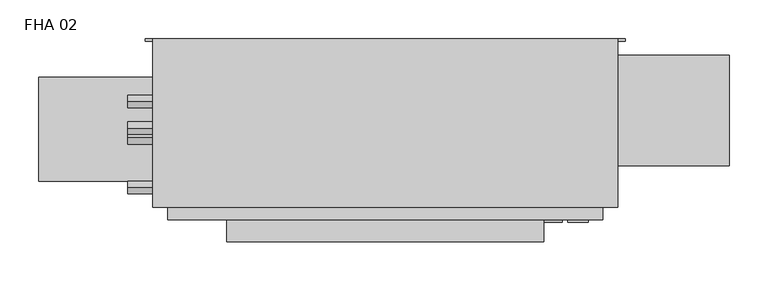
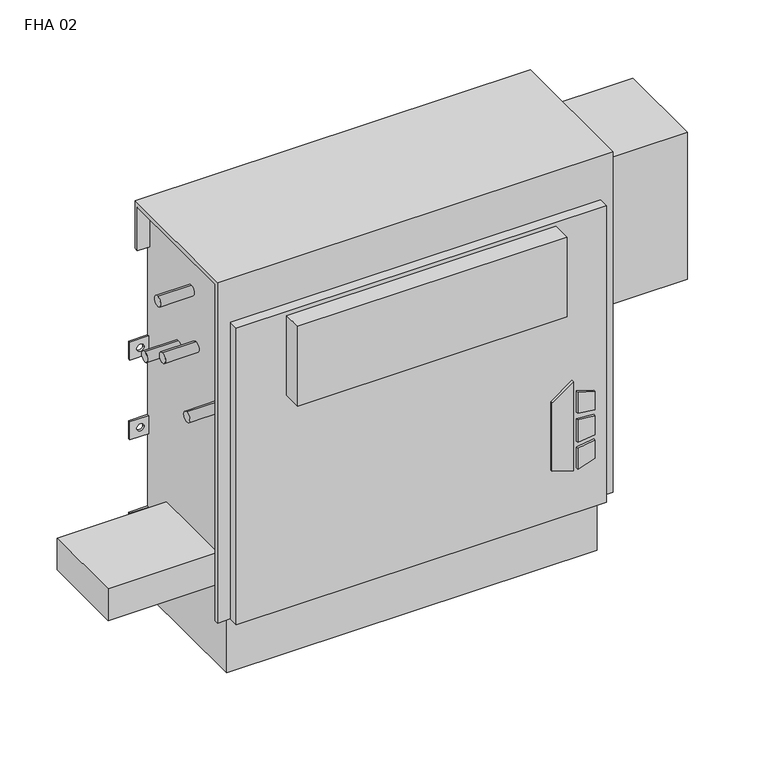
"""IFC4 building model written with IfcOpenShell, lengths in millimetres: proxy geometry, Vertical_Fan_Coil_Unit_-_FHA_-_IEC_-_4-Pipe_FS-FR_LH_2022 : FHA 02."""

import ifcopenshell
import ifcopenshell.guid

model = None  # the IFC model being written
_history = None  # IfcOwnerHistory: only IFC2X3 demands one
_inside = {}  # id of a spatial element -> (the spatial element, [elements in it])
_under = {}  # id of a project, library or spatial element -> (it, [spatial elements below it])
_declared = {}  # id of a project -> (the project, [libraries it declares])
_typed = {}  # id of a type object -> (the type object, [elements of that type])
_made_of = {}  # id of a material, layer set ... -> (it, [elements and type objects made of it])


def new_model(schema):
    """Start an empty IFC model of exactly this schema.

    Asked for "IFC4X3", IfcOpenShell would pick the latest addendum, in which some entities
    have other attributes; the version numbers below select the first issue.
    IFC2X3 requires an IfcOwnerHistory on every rooted entity: one is made here for all.
    """
    global model, _history
    if schema == "IFC4X3":
        model = ifcopenshell.file(schema_version=(4, 3, 0, 0))
    else:
        model = ifcopenshell.file(schema=schema)
    _inside.clear()
    _under.clear()
    _declared.clear()
    _typed.clear()
    _made_of.clear()
    _history = None
    if model.schema == "IFC2X3":
        org = make("IfcOrganization", Name="unknown")
        user = make(
            "IfcPersonAndOrganization",
            ThePerson=make("IfcPerson", FamilyName="unknown"),
            TheOrganization=org,
        )
        app = make(
            "IfcApplication",
            ApplicationDeveloper=org,
            Version="unknown",
            ApplicationFullName="unknown",
            ApplicationIdentifier="unknown",
        )
        _history = make(
            "IfcOwnerHistory",
            OwningUser=user,
            OwningApplication=app,
            ChangeAction="ADDED",
            CreationDate=0,
        )
    return model


def make(cls, **values):
    """One entity of the class cls with the attributes given. An attribute that is None is left unset."""
    return model.create_entity(
        cls, **{name: value for name, value in values.items() if value is not None}
    )


def rooted(cls, **values):
    """An entity with a GlobalId (a new one), such as an element, a storey or a relation."""
    return make(cls, GlobalId=ifcopenshell.guid.new(), OwnerHistory=_history, **values)


def si_unit(unit_type, name, prefix=None):
    """IfcSIUnit, for example si_unit("LENGTHUNIT", "METRE", prefix="MILLI")."""
    return make("IfcSIUnit", UnitType=unit_type, Prefix=prefix, Name=name)


def assignment(units):
    """IfcUnitAssignment: the units of a project."""
    return None if units is None else make("IfcUnitAssignment", Units=units)


def point(xyz):
    """IfcCartesianPoint."""
    return None if xyz is None else make("IfcCartesianPoint", Coordinates=xyz)


def direction(xyz):
    """IfcDirection."""
    return None if xyz is None else make("IfcDirection", DirectionRatios=xyz)


def frame(location, z_axis=None, x_axis=None):
    """IfcAxis2Placement3D, a coordinate frame: its origin and axes. An axis left out is left unset."""
    return make(
        "IfcAxis2Placement3D",
        Location=point(location),
        Axis=direction(z_axis),
        RefDirection=direction(x_axis),
    )


def frame_2d(location, x_axis=None):
    """IfcAxis2Placement2D, a coordinate frame in the plane: its origin and x axis."""
    return make(
        "IfcAxis2Placement2D", Location=point(location), RefDirection=direction(x_axis)
    )


def origin():
    """The frame at (0, 0, 0) with its axes left unset."""
    return frame((0.0, 0.0, 0.0))


def place(relative_to, where):
    """IfcLocalPlacement: puts the frame where relative to a parent placement (None: the world)."""
    return make(
        "IfcLocalPlacement", PlacementRelTo=relative_to, RelativePlacement=where
    )


def context(
    kind, dimensions, precision=None, world=None, true_north=None, identifier=None
):
    """IfcGeometricRepresentationContext, for example the 3D "Model" context."""
    return make(
        "IfcGeometricRepresentationContext",
        ContextIdentifier=identifier,
        ContextType=kind,
        CoordinateSpaceDimension=dimensions,
        Precision=precision,
        WorldCoordinateSystem=world,
        TrueNorth=true_north,
    )


def project(units=None, contexts=None):
    """IfcProject with its units and contexts."""
    return rooted(
        "IfcProject",
        Name="project",
        RepresentationContexts=contexts,
        UnitsInContext=assignment(units),
    )


def spatial(cls, under=None, at=None, **own):
    """A site, building, storey or space (cls), placed at a placement, below another one or the project."""
    s = rooted(cls, ObjectPlacement=at, **own)
    if under is not None:
        _under.setdefault(under.id(), (under, []))[1].append(s)
    return s


def polyline(points):
    """IfcPolyline through the points."""
    return make("IfcPolyline", Points=[point(p) for p in points])


def circle_curve(where, radius):
    """IfcCircle in the frame where."""
    return make("IfcCircle", Position=where, Radius=radius)


def trimmed(basis, trim1, trim2, sense, master):
    """IfcTrimmedCurve: the piece of a basis curve between two trims."""
    return make(
        "IfcTrimmedCurve",
        BasisCurve=basis,
        Trim1=trim1,
        Trim2=trim2,
        SenseAgreement=sense,
        MasterRepresentation=master,
    )


def segment(curve, same_sense, transition):
    """IfcCompositeCurveSegment."""
    return make(
        "IfcCompositeCurveSegment",
        Transition=transition,
        SameSense=same_sense,
        ParentCurve=curve,
    )


def composite_curve(segments, self_intersect=None):
    """IfcCompositeCurve: segments joined end to end."""
    return make("IfcCompositeCurve", Segments=segments, SelfIntersect=self_intersect)


def outline(outer, holes=None, kind="AREA"):
    """IfcArbitraryClosedProfileDef: a profile drawn as a closed curve; with holes, ...WithVoids."""
    if holes is None:
        return make("IfcArbitraryClosedProfileDef", ProfileType=kind, OuterCurve=outer)
    return make(
        "IfcArbitraryProfileDefWithVoids",
        ProfileType=kind,
        OuterCurve=outer,
        InnerCurves=holes,
    )


def extrude(swept, where, along, depth):
    """IfcExtrudedAreaSolid: the profile swept, set in the frame where, extruded along a direction by depth."""
    return make(
        "IfcExtrudedAreaSolid",
        SweptArea=swept,
        Position=where,
        ExtrudedDirection=direction(along),
        Depth=depth,
    )


def shape(context_of_items, identifier, shape_type, items):
    """IfcShapeRepresentation: the items that make up one representation, for example the "Body"."""
    return make(
        "IfcShapeRepresentation",
        ContextOfItems=context_of_items,
        RepresentationIdentifier=identifier,
        RepresentationType=shape_type,
        Items=items,
    )


def source(mapping_origin, context_of_items, identifier, shape_type, items):
    """IfcRepresentationMap: a shape defined once, which mapped items show again and again."""
    return make(
        "IfcRepresentationMap",
        MappingOrigin=mapping_origin,
        MappedRepresentation=shape(context_of_items, identifier, shape_type, items),
    )


def transform(
    local_origin,
    x_axis=None,
    y_axis=None,
    z_axis=None,
    scale=None,
    scale2=None,
    scale3=None,
    uniform=True,
):
    """IfcCartesianTransformationOperator3D, or its non-uniform kind. x_axis, y_axis, z_axis: its Axis1, 2, 3."""
    if uniform:
        return make(
            "IfcCartesianTransformationOperator3D",
            Axis1=direction(x_axis),
            Axis2=direction(y_axis),
            LocalOrigin=point(local_origin),
            Scale=scale,
            Axis3=direction(z_axis),
        )
    return make(
        "IfcCartesianTransformationOperator3DnonUniform",
        Axis1=direction(x_axis),
        Axis2=direction(y_axis),
        LocalOrigin=point(local_origin),
        Scale=scale,
        Axis3=direction(z_axis),
        Scale2=scale2,
        Scale3=scale3,
    )


def mapped(mapping_source, mapping_target):
    """IfcMappedItem: shows the shape of a source again, moved by a transform."""
    return make(
        "IfcMappedItem", MappingSource=mapping_source, MappingTarget=mapping_target
    )


def made_of(thing, what):
    """Note that an element or type object is made of a material, layer set ...; save() writes the relation."""
    if what is not None:
        _made_of.setdefault(what.id(), (what, []))[1].append(thing)
    return thing


def element(
    cls,
    number,
    at=None,
    inside=None,
    cuts=None,
    type_object=None,
    material=None,
    context=None,
    identifier="Body",
    shape_type=None,
    held_by="IfcProductDefinitionShape",
    body=None,
    shapes=None,
    **own,
):
    """One element of the class cls, such as IfcWall. Its Tag is "e" and its number.

    at: its placement. inside: the storey or other place that contains it. cuts: it is an
    opening in that element (IfcRelVoidsElement). A single representation is given by context,
    identifier, shape_type and body (its items); several are given by shapes. held_by: the class
    of the entity that holds the representations. save() writes the other relations.
    """
    e = rooted(cls, Tag="e%d" % number, ObjectPlacement=at, **own)
    if body is not None:
        shapes = [shape(context, identifier, shape_type, body)]
    if shapes is not None:
        e.Representation = make(held_by, Representations=shapes)
    if inside is not None:
        _inside.setdefault(inside.id(), (inside, []))[1].append(e)
    if cuts is not None:
        rooted(
            "IfcRelVoidsElement", RelatingBuildingElement=cuts, RelatedOpeningElement=e
        )
    if type_object is not None:
        _typed.setdefault(type_object.id(), (type_object, []))[1].append(e)
    return made_of(e, material)


def aggregate(whole, parts):
    """IfcRelAggregates: a whole, such as a stair, and the parts it consists of."""
    return rooted("IfcRelAggregates", RelatingObject=whole, RelatedObjects=parts)


def save(model, path):
    """Write the relations noted so far, then the file.

    IfcRelAggregates (storeys below a building ...), IfcRelContainedInSpatialStructure (elements
    in a storey), IfcRelDefinesByType, IfcRelAssociatesMaterial and IfcRelDeclares: one each for
    every whole, place, type object, material and project.
    """
    for whole, parts in _under.values():
        aggregate(whole, parts)
    for where, things in _inside.values():
        rooted(
            "IfcRelContainedInSpatialStructure",
            RelatedElements=things,
            RelatingStructure=where,
        )
    for kind, things in _typed.values():
        rooted("IfcRelDefinesByType", RelatedObjects=things, RelatingType=kind)
    for what, things in _made_of.values():
        rooted("IfcRelAssociatesMaterial", RelatedObjects=things, RelatingMaterial=what)
    for by, libraries in _declared.values():
        rooted("IfcRelDeclares", RelatingContext=by, RelatedDefinitions=libraries)
    model.write(path)


def plane_surface(at):
    """IfcPlane: the flat surface through the origin of the frame at, square to its z axis."""
    return make("IfcPlane", Position=at)


def revolved_surface(curve, axis_point, axis_direction):
    """IfcSurfaceOfRevolution: the curve turned about the line through axis_point along axis_direction."""
    return make(
        "IfcSurfaceOfRevolution",
        SweptCurve=make("IfcArbitraryOpenProfileDef", ProfileType="CURVE", Curve=curve),
        AxisPosition=make("IfcAxis1Placement", Location=point(axis_point), Axis=direction(axis_direction)),
    )


def advanced_brep(points, edges, surfaces, faces):
    """IfcAdvancedBrep: a solid bounded by faces that lie on surfaces and meet in shared edges.

    An edge is (start, end): straight between two places in points (the first is 0);
    or (start, end, curve); or (start, end, curve, False) where it runs against its curve.
    A face is (place in surfaces, loops), or (place, loops, False) where it looks against
    its surface's normal. A loop lists edges by number (the first is 1), with a minus sign
    where the edge is run from its end to its start. The first loop is the outer one.
    """
    corners = [point(p) for p in points]
    vertices = [make("IfcVertexPoint", VertexGeometry=c) for c in corners]
    made = []
    for start, end, *more in edges:
        made.append(
            make(
                "IfcEdgeCurve",
                EdgeStart=vertices[start],
                EdgeEnd=vertices[end],
                EdgeGeometry=more[0] if more else make("IfcPolyline", Points=[corners[start], corners[end]]),
                SameSense=more[1] if len(more) > 1 else True,
            )
        )
    hull = []
    for where, loops, *sense in faces:
        bounds = []
        for j, loop in enumerate(loops):
            ring = [make("IfcOrientedEdge", EdgeElement=made[abs(k) - 1], Orientation=k > 0) for k in loop]
            bounds.append(
                make(
                    "IfcFaceOuterBound" if j == 0 else "IfcFaceBound",
                    Bound=make("IfcEdgeLoop", EdgeList=ring),
                    Orientation=True,
                )
            )
        hull.append(make("IfcAdvancedFace", Bounds=bounds, FaceSurface=surfaces[where], SameSense=sense[0] if sense else True))
    return make("IfcAdvancedBrep", Outer=make("IfcClosedShell", CfsFaces=hull))


def fha_02_48b6a298(model_context):
    return source(origin(), model_context, "Body", "SolidModel", [
        extrude(outline(polyline([(172.5771459, 347.7368862), (162.6290756, 379.9102728), (304.8, 379.9102728), (281.7779939, 347.7368862), (172.5771459, 347.7368862)])), frame((0.0, 9.525, 0.0), z_axis=(0.0, 1.0, 0.0), x_axis=(0.0, 0.0, 1.0)), (0.0, 0.0, 1.0), 3.175),
        extrude(outline(polyline([(251.5764313, 386.6686058), (248.3740387, 412.75), (277.6028798, 412.75), (285.6672948, 386.6686058), (251.5764313, 386.6686058)])), frame((0.0, 9.525, 0.0), z_axis=(0.0, 1.0, 0.0), x_axis=(0.0, 0.0, 1.0)), (0.0, 0.0, 1.0), 3.175),
        extrude(outline(polyline([(199.7129044, 412.75), (196.0474034, 386.6686058), (162.6290756, 386.6686058), (171.2633128, 412.75), (199.7129044, 412.75)])), frame((0.0, 9.525, 0.0), z_axis=(0.0, 1.0, 0.0), x_axis=(0.0, 0.0, 1.0)), (0.0, 0.0, 1.0), 3.175),
        extrude(outline(polyline([(239.0280658, 412.75), (241.3098921, 386.6686058), (205.3723436, 386.6686058), (208.1136086, 412.75), (239.0280658, 412.75)])), frame((0.0, 9.525, 0.0), z_axis=(0.0, 1.0, 0.0), x_axis=(0.0, 0.0, 1.0)), (0.0, 0.0, 1.0), 3.175),
        extrude(outline(composite_curve([segment(trimmed(circle_curve(frame_2d((-190.5, 128.5875)), 9.525), [point((-200.025, 128.5875))], [point((-180.975, 128.5875))], False, "CARTESIAN"), True, "CONTINUOUS"), segment(trimmed(circle_curve(frame_2d((-190.5, 128.5875)), 9.525), [point((-180.975, 128.5875))], [point((-200.025, 128.5875))], False, "CARTESIAN"), True, "CONTINUOUS")], self_intersect=False)), frame((0.0, 0.0, 101.6), z_axis=(0.0, 0.0, 1.0), x_axis=(1.0, 0.0, 0.0)), (0.0, 0.0, 1.0), 25.4),
        extrude(outline(polyline([(-292.1, 61.9125), (-292.1, 195.2625), (-127.0, 195.2625), (-127.0, 61.9125), (-292.1, 61.9125)])), frame((0.0, 0.0, 127.0), z_axis=(0.0, 0.0, 1.0), x_axis=(1.0, 0.0, 0.0)), (0.0, 0.0, 1.0), 50.8),
        extrude(outline(polyline([(355.6, -15.875), (-50.8, -15.875), (-50.8, 12.7), (355.6, 12.7), (355.6, -15.875)])), frame((0.0, 0.0, 431.8), z_axis=(0.0, 0.0, 1.0), x_axis=(1.0, 0.0, 0.0)), (0.0, 0.0, 1.0), 127.0),
        extrude(outline(composite_curve([segment(trimmed(circle_curve(frame_2d((117.475, 472.44)), 7.9375), [point((117.475, 480.3775))], [point((117.475, 464.5025))], False, "CARTESIAN"), True, "CONTINUOUS"), segment(trimmed(circle_curve(frame_2d((117.475, 472.44)), 7.9375), [point((117.475, 464.5025))], [point((117.475, 480.3775))], False, "CARTESIAN"), True, "CONTINUOUS")], self_intersect=False)), frame((-177.8, 0.0, 0.0), z_axis=(1.0, 0.0, 0.0), x_axis=(0.0, 1.0, 0.0)), (0.0, 0.0, 1.0), 50.8),
        extrude(outline(composite_curve([segment(trimmed(circle_curve(frame_2d((164.0586, 445.897)), 7.9375), [point((164.0586, 453.8345))], [point((164.0586, 437.9595))], False, "CARTESIAN"), True, "CONTINUOUS"), segment(trimmed(circle_curve(frame_2d((164.0586, 445.897)), 7.9375), [point((164.0586, 437.9595))], [point((164.0586, 453.8345))], False, "CARTESIAN"), True, "CONTINUOUS")], self_intersect=False)), frame((-177.8, 0.0, 0.0), z_axis=(1.0, 0.0, 0.0), x_axis=(0.0, 1.0, 0.0)), (0.0, 0.0, 1.0), 50.8),
        extrude(outline(composite_curve([segment(trimmed(circle_curve(frame_2d((130.175, 554.99)), 7.9502), [point((130.175, 562.9402))], [point((130.175, 547.0398))], False, "CARTESIAN"), True, "CONTINUOUS"), segment(trimmed(circle_curve(frame_2d((130.175, 554.99)), 7.9502), [point((130.175, 547.0398))], [point((130.175, 562.9402))], False, "CARTESIAN"), True, "CONTINUOUS")], self_intersect=False)), frame((-177.8, 0.0, 0.0), z_axis=(1.0, 0.0, 0.0), x_axis=(0.0, 1.0, 0.0)), (0.0, 0.0, 1.0), 50.8),
        extrude(outline(composite_curve([segment(trimmed(circle_curve(frame_2d((53.975, 416.56)), 7.9502), [point((53.975, 424.5102))], [point((53.975, 408.6098))], False, "CARTESIAN"), True, "CONTINUOUS"), segment(trimmed(circle_curve(frame_2d((53.975, 416.56)), 7.9502), [point((53.975, 408.6098))], [point((53.975, 424.5102))], False, "CARTESIAN"), True, "CONTINUOUS")], self_intersect=False)), frame((-177.8, 0.0, 0.0), z_axis=(1.0, 0.0, 0.0), x_axis=(0.0, 1.0, 0.0)), (0.0, 0.0, 1.0), 50.8),
        extrude(outline(polyline([(593.725, 223.266), (593.725, 81.534), (431.8, 81.534), (431.8, 223.266), (593.725, 223.266)])), frame((0.0, 0.0, 349.25), z_axis=(0.0, 0.0, 1.0), x_axis=(1.0, 0.0, 0.0)), (0.0, 0.0, 1.0), 234.95),
        advanced_brep(
        [(450.85, 244.475, 635.0), (-146.05, 244.475, 635.0), (-146.05, 28.575, 635.0), (450.85, 28.575, 635.0), (-127.0, 244.475, 0.0), (431.8, 244.475, 0.0), (431.8, 38.1, 0.0), (-127.0, 38.1, 0.0), (450.85, 244.475, 558.8), (431.8, 244.475, 558.8), (431.8, 244.475, 414.3375), (460.375, 244.475, 414.3375), (460.375, 244.475, 385.7625), (431.8, 244.475, 385.7625), (431.8, 244.475, 287.3375), (460.375, 244.475, 287.3375), (460.375, 244.475, 258.7625), (431.8, 244.475, 258.7625), (431.8, 244.475, 141.2875), (460.375, 244.475, 141.2875), (460.375, 244.475, 112.7125), (431.8, 244.475, 112.7125), (-127.0, 244.475, 112.7125), (-155.575, 244.475, 112.7125), (-155.575, 244.475, 141.2875), (-127.0, 244.475, 141.2875), (-127.0, 244.475, 258.7625), (-155.575, 244.475, 258.7625), (-155.575, 244.475, 287.3375), (-127.0, 244.475, 287.3375), (-127.0, 244.475, 385.7625), (-155.575, 244.475, 385.7625), (-155.575, 244.475, 414.3375), (-127.0, 244.475, 414.3375), (-127.0, 244.475, 558.8), (-146.05, 244.475, 558.8), (450.0626, 244.475, 127.0), (438.9374, 244.475, 127.0), (-134.1374, 244.475, 127.0), (-145.2626, 244.475, 127.0), (450.0626, 244.475, 273.05), (438.9374, 244.475, 273.05), (-134.1374, 244.475, 273.05), (-145.2626, 244.475, 273.05), (450.0626, 244.475, 400.05), (438.9374, 244.475, 400.05), (-134.1374, 244.475, 400.05), (-145.2626, 244.475, 400.05), (-146.05, 238.125, 558.8), (-146.05, 238.125, 628.65), (-146.05, 34.925, 628.65), (-146.05, 34.925, 92.075), (-146.05, 28.575, 92.075), (431.8, 12.7, 565.15), (-127.0, 12.7, 565.15), (-127.0, 12.7, 92.075), (431.8, 12.7, 92.075), (450.85, 28.575, 92.075), (450.85, 34.925, 92.075), (450.85, 34.925, 628.65), (450.85, 238.125, 628.65), (450.85, 238.125, 558.8), (-127.0, 28.575, 92.075), (-127.0, 28.575, 565.15), (431.8, 28.575, 565.15), (431.8, 28.575, 92.075), (-127.0, 34.925, 92.075), (-127.0, 38.1, 92.075), (431.8, 38.1, 92.075), (431.8, 34.925, 92.075), (431.8, 241.3, 112.7125), (431.8, 241.3, 141.2875), (431.8, 241.3, 258.7625), (431.8, 241.3, 287.3375), (431.8, 241.3, 385.7625), (431.8, 241.3, 414.3375), (431.8, 238.125, 558.8), (431.8, 238.125, 628.65), (431.8, 34.925, 628.65), (-127.0, 34.925, 628.65), (-127.0, 238.125, 628.65), (-127.0, 238.125, 558.8), (-127.0, 241.3, 414.3375), (-127.0, 241.3, 385.7625), (-127.0, 241.3, 287.3375), (-127.0, 241.3, 258.7625), (-127.0, 241.3, 141.2875), (-127.0, 241.3, 112.7125), (460.375, 241.3, 112.7125), (460.375, 241.3, 141.2875), (438.9374, 241.3, 127.0), (450.0626, 241.3, 127.0), (460.375, 241.3, 258.7625), (460.375, 241.3, 287.3375), (438.9374, 241.3, 273.05), (450.0626, 241.3, 273.05), (460.375, 241.3, 385.7625), (460.375, 241.3, 414.3375), (438.9374, 241.3, 400.05), (450.0626, 241.3, 400.05), (-155.575, 241.3, 141.2875), (-155.575, 241.3, 112.7125), (-145.2626, 241.3, 127.0), (-134.1374, 241.3, 127.0), (-155.575, 241.3, 287.3375), (-155.575, 241.3, 258.7625), (-145.2626, 241.3, 273.05), (-134.1374, 241.3, 273.05), (-155.575, 241.3, 414.3375), (-155.575, 241.3, 385.7625), (-145.2626, 241.3, 400.05), (-134.1374, 241.3, 400.05)],
        [
            (0, 1),
            (1, 2),
            (2, 3),
            (3, 0),
            (4, 5),
            (5, 6),
            (6, 7),
            (7, 4),
            (0, 8),
            (8, 9),
            (9, 10),
            (10, 11),
            (11, 12),
            (12, 13),
            (13, 14),
            (14, 15),
            (15, 16),
            (16, 17),
            (17, 18),
            (18, 19),
            (19, 20),
            (20, 21),
            (21, 5),
            (4, 22),
            (22, 23),
            (23, 24),
            (24, 25),
            (25, 26),
            (26, 27),
            (27, 28),
            (28, 29),
            (29, 30),
            (30, 31),
            (31, 32),
            (32, 33),
            (33, 34),
            (34, 35),
            (35, 1),
            (36, 37, circle_curve(frame((444.5, 244.475, 127.0), z_axis=(0.0, -1.0, 0.0), x_axis=(-1.0, 0.0, 0.0)), 5.5626)),
            (37, 36, circle_curve(frame((444.5, 244.475, 127.0), z_axis=(0.0, -1.0, 0.0), x_axis=(-1.0, 0.0, 0.0)), 5.5626)),
            (38, 39, circle_curve(frame((-139.7, 244.475, 127.0), z_axis=(0.0, -1.0, 0.0), x_axis=(-1.0, 0.0, 0.0)), 5.5626)),
            (39, 38, circle_curve(frame((-139.7, 244.475, 127.0), z_axis=(0.0, -1.0, 0.0), x_axis=(-1.0, 0.0, 0.0)), 5.5626)),
            (40, 41, circle_curve(frame((444.5, 244.475, 273.05), z_axis=(0.0, -1.0, 0.0), x_axis=(-1.0, 0.0, 0.0)), 5.5626)),
            (41, 40, circle_curve(frame((444.5, 244.475, 273.05), z_axis=(0.0, -1.0, 0.0), x_axis=(-1.0, 0.0, 0.0)), 5.5626)),
            (42, 43, circle_curve(frame((-139.7, 244.475, 273.05), z_axis=(0.0, -1.0, 0.0), x_axis=(-1.0, 0.0, 0.0)), 5.5626)),
            (43, 42, circle_curve(frame((-139.7, 244.475, 273.05), z_axis=(0.0, -1.0, 0.0), x_axis=(-1.0, 0.0, 0.0)), 5.5626)),
            (44, 45, circle_curve(frame((444.5, 244.475, 400.05), z_axis=(0.0, -1.0, 0.0), x_axis=(-1.0, 0.0, 0.0)), 5.5626)),
            (45, 44, circle_curve(frame((444.5, 244.475, 400.05), z_axis=(0.0, -1.0, 0.0), x_axis=(-1.0, 0.0, 0.0)), 5.5626)),
            (46, 47, circle_curve(frame((-139.7, 244.475, 400.05), z_axis=(0.0, -1.0, 0.0), x_axis=(-1.0, 0.0, 0.0)), 5.5626)),
            (47, 46, circle_curve(frame((-139.7, 244.475, 400.05), z_axis=(0.0, -1.0, 0.0), x_axis=(-1.0, 0.0, 0.0)), 5.5626)),
            (35, 48),
            (48, 49),
            (49, 50),
            (50, 51),
            (51, 52),
            (52, 2),
            (53, 54),
            (54, 55),
            (55, 56),
            (56, 53),
            (3, 57),
            (57, 58),
            (58, 59),
            (59, 60),
            (60, 61),
            (61, 8),
            (52, 62),
            (62, 63),
            (63, 64),
            (64, 65),
            (65, 57),
            (53, 64),
            (63, 54),
            (55, 62),
            (51, 66),
            (66, 67),
            (67, 68),
            (68, 69),
            (69, 58),
            (65, 56),
            (6, 68),
            (67, 7),
            (21, 70),
            (70, 71),
            (71, 18),
            (17, 72),
            (72, 73),
            (73, 14),
            (13, 74),
            (74, 75),
            (75, 10),
            (9, 76),
            (76, 77),
            (77, 78),
            (78, 69),
            (66, 79),
            (79, 80),
            (80, 81),
            (81, 34),
            (33, 82),
            (82, 83),
            (83, 30),
            (29, 84),
            (84, 85),
            (85, 26),
            (25, 86),
            (86, 87),
            (87, 22),
            (76, 61),
            (60, 77),
            (78, 59),
            (50, 79),
            (81, 48),
            (80, 49),
            (70, 88),
            (88, 89),
            (89, 71),
            (90, 91, circle_curve(frame((444.5, 241.3, 127.0), z_axis=(0.0, 1.0, 0.0), x_axis=(-1.0, 0.0, 0.0)), 5.5626)),
            (91, 90, circle_curve(frame((444.5, 241.3, 127.0), z_axis=(0.0, 1.0, 0.0), x_axis=(-1.0, 0.0, 0.0)), 5.5626)),
            (92, 93),
            (93, 73),
            (72, 92),
            (94, 95, circle_curve(frame((444.5, 241.3, 273.05), z_axis=(0.0, 1.0, 0.0), x_axis=(-1.0, 0.0, 0.0)), 5.5626)),
            (95, 94, circle_curve(frame((444.5, 241.3, 273.05), z_axis=(0.0, 1.0, 0.0), x_axis=(-1.0, 0.0, 0.0)), 5.5626)),
            (96, 97),
            (97, 75),
            (74, 96),
            (98, 99, circle_curve(frame((444.5, 241.3, 400.05), z_axis=(0.0, 1.0, 0.0), x_axis=(-1.0, 0.0, 0.0)), 5.5626)),
            (99, 98, circle_curve(frame((444.5, 241.3, 400.05), z_axis=(0.0, 1.0, 0.0), x_axis=(-1.0, 0.0, 0.0)), 5.5626)),
            (100, 101),
            (101, 87),
            (86, 100),
            (102, 103, circle_curve(frame((-139.7, 241.3, 127.0), z_axis=(0.0, 1.0, 0.0), x_axis=(-1.0, 0.0, 0.0)), 5.5626)),
            (103, 102, circle_curve(frame((-139.7, 241.3, 127.0), z_axis=(0.0, 1.0, 0.0), x_axis=(-1.0, 0.0, 0.0)), 5.5626)),
            (84, 104),
            (104, 105),
            (105, 85),
            (106, 107, circle_curve(frame((-139.7, 241.3, 273.05), z_axis=(0.0, 1.0, 0.0), x_axis=(-1.0, 0.0, 0.0)), 5.5626)),
            (107, 106, circle_curve(frame((-139.7, 241.3, 273.05), z_axis=(0.0, 1.0, 0.0), x_axis=(-1.0, 0.0, 0.0)), 5.5626)),
            (108, 109),
            (109, 83),
            (82, 108),
            (110, 111, circle_curve(frame((-139.7, 241.3, 400.05), z_axis=(0.0, 1.0, 0.0), x_axis=(-1.0, 0.0, 0.0)), 5.5626)),
            (111, 110, circle_curve(frame((-139.7, 241.3, 400.05), z_axis=(0.0, 1.0, 0.0), x_axis=(-1.0, 0.0, 0.0)), 5.5626)),
            (89, 19),
            (88, 20),
            (16, 92),
            (93, 15),
            (12, 96),
            (97, 11),
            (24, 100),
            (101, 23),
            (105, 27),
            (104, 28),
            (32, 108),
            (109, 31),
            (90, 37),
            (36, 91),
            (102, 39),
            (38, 103),
            (94, 41),
            (40, 95),
            (106, 43),
            (42, 107),
            (98, 45),
            (44, 99),
            (110, 47),
            (46, 111),
        ],
        [
            plane_surface(frame((-146.05, 244.475, 635.0), z_axis=(0.0, 0.0, 1.0), x_axis=(-1.0, 0.0, 0.0))),
            plane_surface(frame((-146.05, 244.475, 0.0), z_axis=(0.0, 0.0, -1.0), x_axis=(1.0, 0.0, 0.0))),
            plane_surface(frame((450.85, 244.475, 635.0), z_axis=(0.0, 1.0, 0.0), x_axis=(0.0, 0.0, -1.0))),
            plane_surface(frame((-146.05, 244.475, 635.0), z_axis=(-1.0, 0.0, 0.0), x_axis=(0.0, 0.0, -1.0))),
            plane_surface(frame((-146.05, 12.7, 635.0), z_axis=(0.0, -1.0, 0.0), x_axis=(0.0, 0.0, -1.0))),
            plane_surface(frame((450.85, 12.7, 635.0), z_axis=(1.0, 0.0, 0.0), x_axis=(0.0, 0.0, -1.0))),
            plane_surface(frame((-146.05, 28.575, 635.0), z_axis=(0.0, -1.0, 0.0), x_axis=(1.0, 0.0, 0.0))),
            plane_surface(frame((-146.05, 28.575, 565.15), z_axis=(0.0, 0.0, 1.0), x_axis=(1.0, 0.0, 0.0))),
            plane_surface(frame((-146.05, 12.7, 92.075), z_axis=(0.0, 0.0, -1.0), x_axis=(1.0, 0.0, 0.0))),
            plane_surface(frame((-146.05, 38.1, 92.075), z_axis=(0.0, -1.0, 0.0), x_axis=(1.0, 0.0, 0.0))),
            plane_surface(frame((431.8, 28.575, 92.075), z_axis=(1.0, 0.0, 0.0), x_axis=(0.0, -1.0, 0.0))),
            plane_surface(frame((-127.0, 28.575, 565.15), z_axis=(-1.0, 0.0, 0.0), x_axis=(0.0, -1.0, 0.0))),
            plane_surface(frame((431.8, 244.475, 0.0), z_axis=(1.0, 0.0, 0.0), x_axis=(0.0, -1.0, 0.0))),
            plane_surface(frame((-127.0, 244.475, 92.075), z_axis=(-1.0, 0.0, 0.0), x_axis=(0.0, -1.0, 0.0))),
            plane_surface(frame((431.8, 238.125, 628.65), z_axis=(0.0, -1.0, 0.0), x_axis=(1.0, 0.0, 0.0))),
            plane_surface(frame((431.8, 238.125, 558.8), z_axis=(0.0, 0.0, -1.0), x_axis=(1.0, 0.0, 0.0))),
            plane_surface(frame((431.8, 34.925, 92.075), z_axis=(0.0, 1.0, 0.0), x_axis=(1.0, 0.0, 0.0))),
            plane_surface(frame((431.8, 34.925, 628.65), z_axis=(0.0, 0.0, -1.0), x_axis=(1.0, 0.0, 0.0))),
            plane_surface(frame((-127.0, 34.925, 628.65), z_axis=(0.0, 1.0, 0.0), x_axis=(-1.0, 0.0, 0.0))),
            plane_surface(frame((-127.0, 244.475, 558.8), z_axis=(0.0, 0.0, -1.0), x_axis=(-1.0, 0.0, 0.0))),
            plane_surface(frame((-127.0, 238.125, 558.8), z_axis=(0.0, -1.0, 0.0), x_axis=(-1.0, 0.0, 0.0))),
            plane_surface(frame((-127.0, 238.125, 628.65), z_axis=(0.0, 0.0, -1.0), x_axis=(-1.0, 0.0, 0.0))),
            plane_surface(frame((460.375, 241.3, 141.2875), z_axis=(0.0, -1.0, 0.0), x_axis=(-1.0, 0.0, 0.0))),
            plane_surface(frame((431.8, 244.475, 141.2875), z_axis=(0.0, 0.0, 1.0), x_axis=(0.0, -1.0, 0.0))),
            plane_surface(frame((460.375, 244.475, 141.2875), z_axis=(1.0, 0.0, 0.0), x_axis=(0.0, -1.0, 0.0))),
            plane_surface(frame((460.375, 244.475, 112.7125), z_axis=(0.0, 0.0, -1.0), x_axis=(0.0, -1.0, 0.0))),
            plane_surface(frame((460.375, 244.475, 258.7625), z_axis=(0.0, 0.0, -1.0), x_axis=(0.0, -1.0, 0.0))),
            plane_surface(frame((431.8, 244.475, 287.3375), z_axis=(0.0, 0.0, 1.0), x_axis=(0.0, -1.0, 0.0))),
            plane_surface(frame((460.375, 244.475, 287.3375), z_axis=(1.0, 0.0, 0.0), x_axis=(0.0, -1.0, 0.0))),
            plane_surface(frame((460.375, 244.475, 385.7625), z_axis=(0.0, 0.0, -1.0), x_axis=(0.0, -1.0, 0.0))),
            plane_surface(frame((431.8, 244.475, 414.3375), z_axis=(0.0, 0.0, 1.0), x_axis=(0.0, -1.0, 0.0))),
            plane_surface(frame((460.375, 244.475, 414.3375), z_axis=(1.0, 0.0, 0.0), x_axis=(0.0, -1.0, 0.0))),
            plane_surface(frame((-155.575, 244.475, 141.2875), z_axis=(0.0, 0.0, 1.0), x_axis=(0.0, -1.0, 0.0))),
            plane_surface(frame((-127.0, 244.475, 112.7125), z_axis=(0.0, 0.0, -1.0), x_axis=(0.0, -1.0, 0.0))),
            plane_surface(frame((-155.575, 244.475, 112.7125), z_axis=(-1.0, 0.0, 0.0), x_axis=(0.0, -1.0, 0.0))),
            plane_surface(frame((-127.0, 244.475, 258.7625), z_axis=(0.0, 0.0, -1.0), x_axis=(0.0, -1.0, 0.0))),
            plane_surface(frame((-155.575, 244.475, 258.7625), z_axis=(-1.0, 0.0, 0.0), x_axis=(0.0, -1.0, 0.0))),
            plane_surface(frame((-155.575, 244.475, 287.3375), z_axis=(0.0, 0.0, 1.0), x_axis=(0.0, -1.0, 0.0))),
            plane_surface(frame((-155.575, 244.475, 414.3375), z_axis=(0.0, 0.0, 1.0), x_axis=(0.0, -1.0, 0.0))),
            plane_surface(frame((-127.0, 244.475, 385.7625), z_axis=(0.0, 0.0, -1.0), x_axis=(0.0, -1.0, 0.0))),
            plane_surface(frame((-155.575, 244.475, 385.7625), z_axis=(-1.0, 0.0, 0.0), x_axis=(0.0, -1.0, 0.0))),
            revolved_surface(polyline([(438.9374, 241.3, 127.0), (438.9374, 244.475, 127.0)]), (444.5, 244.475, 127.0), (0.0, -1.0, 0.0)),
            revolved_surface(polyline([(-145.2626, 241.3, 127.0), (-145.2626, 244.475, 127.0)]), (-139.7, 244.475, 127.0), (0.0, -1.0, 0.0)),
            revolved_surface(polyline([(438.9374, 241.3, 273.05), (438.9374, 244.475, 273.05)]), (444.5, 244.475, 273.05), (0.0, -1.0, 0.0)),
            revolved_surface(polyline([(-145.2626, 241.3, 273.05), (-145.2626, 244.475, 273.05)]), (-139.7, 244.475, 273.05), (0.0, -1.0, 0.0)),
            revolved_surface(polyline([(438.9374, 241.3, 400.05), (438.9374, 244.475, 400.05)]), (444.5, 244.475, 400.05), (0.0, -1.0, 0.0)),
            revolved_surface(polyline([(-145.2626, 241.3, 400.05), (-145.2626, 244.475, 400.05)]), (-139.7, 244.475, 400.05), (0.0, -1.0, 0.0)),
        ],
        [
            (0, [[1, 2, 3, 4]]),
            (1, [[5, 6, 7, 8]]),
            (2, [[-1, 9, 10, 11, 12, 13, 14, 15, 16, 17, 18, 19, 20, 21, 22, 23, -5, 24, 25, 26, 27, 28, 29, 30, 31, 32, 33, 34, 35, 36, 37, 38], [39, 40], [41, 42], [43, 44], [45, 46], [47, 48], [49, 50]]),
            (3, [[-2, -38, 51, 52, 53, 54, 55, 56]]),
            (4, [[57, 58, 59, 60]]),
            (5, [[-4, 61, 62, 63, 64, 65, 66, -9]]),
            (6, [[-3, -56, 67, 68, 69, 70, 71, -61]]),
            (7, [[-57, 72, -69, 73]]),
            (8, [[-59, 74, -67, -55, 75, 76, 77, 78, 79, -62, -71, 80]]),
            (9, [[-7, 81, -77, 82]]),
            (10, [[-70, -72, -60, -80]]),
            (11, [[-68, -74, -58, -73]]),
            (12, [[-6, -23, 83, 84, 85, -19, 86, 87, 88, -15, 89, 90, 91, -11, 92, 93, 94, 95, -78, -81]]),
            (13, [[-8, -82, -76, 96, 97, 98, 99, -36, 100, 101, 102, -32, 103, 104, 105, -28, 106, 107, 108, -24]]),
            (14, [[-93, 109, -65, 110]]),
            (15, [[-92, -10, -66, -109]]),
            (16, [[-95, 111, -63, -79]]),
            (17, [[-94, -110, -64, -111]]),
            (18, [[-96, -75, -54, 112]]),
            (19, [[-99, 113, -51, -37]]),
            (20, [[-98, 114, -52, -113]]),
            (21, [[-97, -112, -53, -114]]),
            (22, [[115, 116, 117, -84], [118, 119]]),
            (22, [[120, 121, -87, 122], [123, 124]]),
            (22, [[125, 126, -90, 127], [128, 129]]),
            (22, [[130, 131, -107, 132], [133, 134]]),
            (22, [[135, 136, 137, -104], [138, 139]]),
            (22, [[140, 141, -101, 142], [143, 144]]),
            (23, [[-117, 145, -20, -85]]),
            (24, [[-116, 146, -21, -145]]),
            (25, [[-115, -83, -22, -146]]),
            (26, [[-122, -86, -18, 147]]),
            (27, [[-121, 148, -16, -88]]),
            (28, [[-120, -147, -17, -148]]),
            (29, [[-127, -89, -14, 149]]),
            (30, [[-126, 150, -12, -91]]),
            (31, [[-125, -149, -13, -150]]),
            (32, [[-132, -106, -27, 151]]),
            (33, [[-131, 152, -25, -108]]),
            (34, [[-130, -151, -26, -152]]),
            (35, [[-137, 153, -29, -105]]),
            (36, [[-136, 154, -30, -153]]),
            (37, [[-135, -103, -31, -154]]),
            (38, [[-142, -100, -35, 155]]),
            (39, [[-141, 156, -33, -102]]),
            (40, [[-140, -155, -34, -156]]),
            (41, [[157, -39, 158, -118]]),
            (41, [[-157, -119, -158, -40]]),
            (42, [[159, -41, 160, -133]]),
            (42, [[-159, -134, -160, -42]]),
            (43, [[161, -43, 162, -123]]),
            (43, [[-161, -124, -162, -44]]),
            (44, [[163, -45, 164, -138]]),
            (44, [[-163, -139, -164, -46]]),
            (45, [[165, -47, 166, -128]]),
            (45, [[-165, -129, -166, -48]]),
            (46, [[167, -49, 168, -143]]),
            (46, [[-167, -144, -168, -50]]),
        ],
    ),
    ])


if __name__ == "__main__":
    model = new_model("IFC4")
    model_context = context("Model", 3, world=origin())
    ifc_project = project(units=[si_unit("LENGTHUNIT", "METRE", prefix="MILLI")], contexts=[model_context])
    site = spatial("IfcSite", under=ifc_project)
    building = spatial("IfcBuilding", under=site)
    placement = place(None, origin())
    fha_02_shape = fha_02_48b6a298(model_context)
    element("IfcBuildingElementProxy", 1, Name="Vertical_Fan_Coil_Unit_-_FHA_-_IEC_-_4-Pipe_FS-FR_LH_2022 : FHA 02", ObjectType="Vertical_Fan_Coil_Unit_-_FHA_-_IEC_-_4-Pipe_FS-FR_LH_2022 : FHA 02", at=placement, inside=building, context=model_context, shape_type="MappedRepresentation", body=[
        mapped(fha_02_shape, transform((0.0, 0.0, 0.0), x_axis=(1.0, 0.0, 0.0), y_axis=(0.0, 1.0, 0.0), z_axis=(0.0, 0.0, 1.0))),
    ])
    save(model, "model.ifc")
